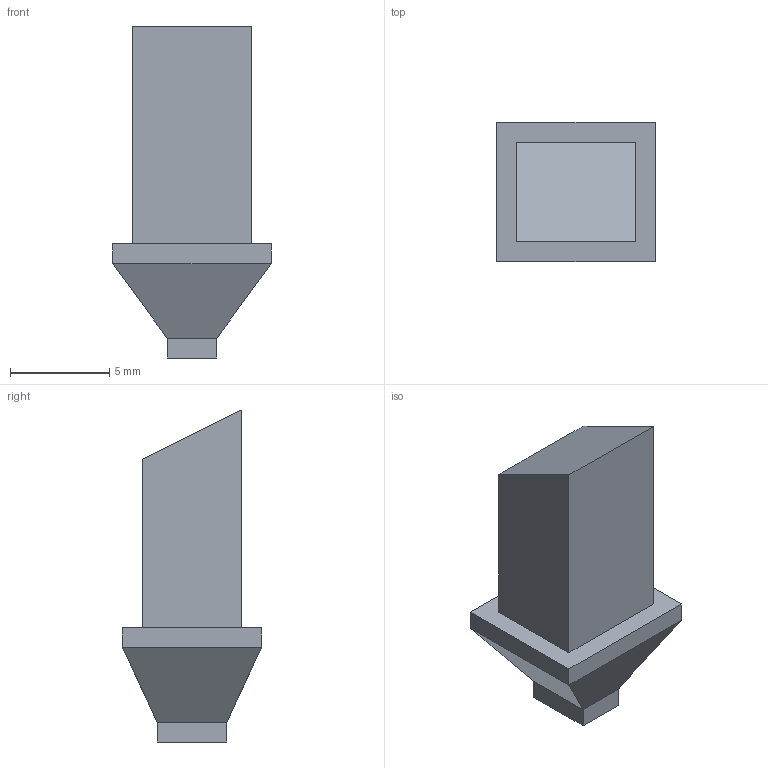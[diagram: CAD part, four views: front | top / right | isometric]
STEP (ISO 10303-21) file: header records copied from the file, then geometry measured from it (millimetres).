
FILE_DESCRIPTION(('Open CASCADE Model'),'2;1');
FILE_NAME('Open CASCADE Shape Model','2026-11-26T01:40:42',('Author'),( 'Open CASCADE'),'Open CASCADE STEP processor 7.9','build123d', 'Unknown');
FILE_SCHEMA(('AUTOMOTIVE_DESIGN { 1 0 10303 214 1 1 1 1 }'));
Products named in the file (1): SOLID
Bounding box: 8 x 7 x 16.72 mm (x, y, z)
Volume: 465.7 mm3; surface area: 416.3 mm2
Topology: 1 solids, 1 shells, 19 faces, 40 edges, 24 vertices
Faces by surface type: plane 14, bspline 5
Entity records: 39045 total; most frequent: CARTESIAN_POINT 38269, DIRECTION 118, LINE 88, VECTOR 88, ORIENTED_EDGE 80, PCURVE 80, DEFINITIONAL_REPRESENTATION 80, EDGE_CURVE 40
